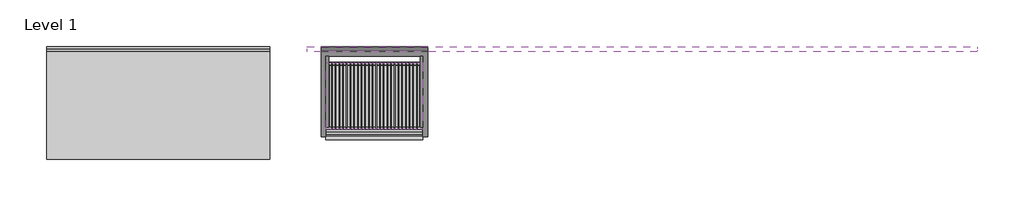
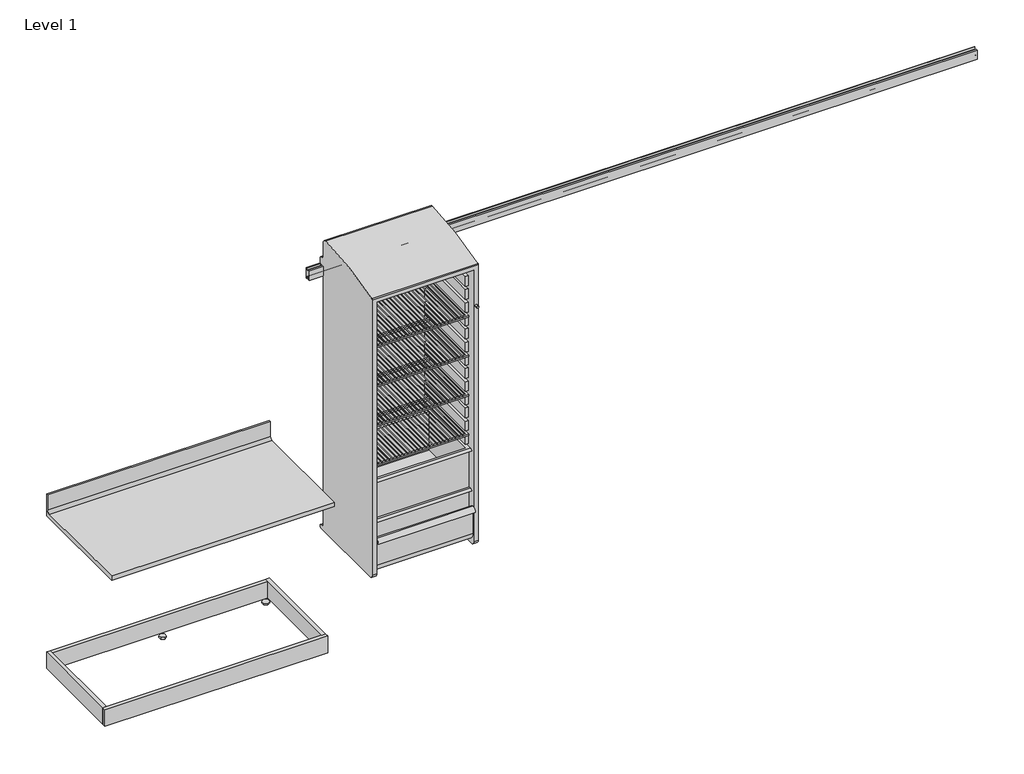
# One storey, incomplete: 10 furniture elements.
"""IFC4 building model written with IfcOpenShell, lengths in millimetres."""

from ifc_helpers import new_model, si_unit, origin, place, context, project, spatial, transform, mapped, element, save
from components import furniture_46a5a3ee, furniture_0da3120b, furniture_ac1c1512, furniture_2e5dc451, furniture_ac9ddba1, furniture_5ebc722f, furniture_ceff2c2c, c_9_c4f12e08, c_9_236a4160, standard_144w_a9847ba4

model = new_model("IFC4")

# Units and contexts
model_context = context("Model", 3, world=origin())
ifc_project = project(units=[si_unit("LENGTHUNIT", "METRE", prefix="MILLI")], contexts=[model_context])

# Site, building, storey
site = spatial("IfcSite", under=ifc_project)
building = spatial("IfcBuilding", under=site)
storey = spatial("IfcBuildingStorey", under=building, Name="Level 1", Elevation=0.0)

# Furniture
placement = place(None, origin())
furniture_shape = furniture_46a5a3ee(model_context)
element("IfcFurniture", 1, ObjectType="HermanMiller_CoStruc_CO252_CWireShelf : 14D x 20W", at=placement, inside=storey, context=model_context, shape_type="MappedRepresentation", body=[
    mapped(furniture_shape, transform((1789.17092, -269.14602, 0.0), x_axis=(1.0, 0.0, 0.0), y_axis=(0.0, 1.0, 0.0), z_axis=(0.0, 0.0, 1.0))),
])
furniture_2_shape = furniture_0da3120b(model_context)
element("IfcFurniture", 2, ObjectType="HermanMiller_CoStruc_CO252_CWireShelf : 14D x 20W", at=placement, inside=storey, context=model_context, shape_type="MappedRepresentation", body=[
    mapped(furniture_2_shape, transform((1789.17092, -269.14602, 0.0), x_axis=(1.0, 0.0, 0.0), y_axis=(0.0, 1.0, 0.0), z_axis=(0.0, 0.0, 1.0))),
])
furniture_3_shape = furniture_ac1c1512(model_context)
element("IfcFurniture", 3, ObjectType="HermanMiller_CoStruc_CO252_CWireShelf : 14D x 20W", at=placement, inside=storey, context=model_context, shape_type="MappedRepresentation", body=[
    mapped(furniture_3_shape, transform((1789.17092, -269.14602, 0.0), x_axis=(1.0, 0.0, 0.0), y_axis=(0.0, 1.0, 0.0), z_axis=(0.0, 0.0, 1.0))),
])
furniture_4_shape = furniture_2e5dc451(model_context)
element("IfcFurniture", 4, ObjectType="HermanMiller_CoStruc_CO252_CWireShelf : 14D x 20W", at=placement, inside=storey, context=model_context, shape_type="MappedRepresentation", body=[
    mapped(furniture_4_shape, transform((1789.17092, -269.14602, 0.0), x_axis=(1.0, 0.0, 0.0), y_axis=(0.0, 1.0, 0.0), z_axis=(0.0, 0.0, 1.0))),
])
furniture_5_shape = furniture_ac9ddba1(model_context)
element("IfcFurniture", 5, ObjectType="HermanMiller_CoStruc_CO561_LockerWithTambourDoor : 66\"H x 20\"D x 22\"W Wlock", at=placement, inside=storey, context=model_context, shape_type="MappedRepresentation", body=[
    mapped(furniture_5_shape, transform((1789.1125, -246.0625, 0.0), x_axis=(1.0, 0.0, 0.0), y_axis=(0.0, 1.0, 0.0), z_axis=(0.0, 0.0, 1.0))),
])
furniture_6_shape = furniture_5ebc722f(model_context)
element("IfcFurniture", 6, ObjectType="HermanMiller_Mora_CH600_CorianWorksurface : 4H Integrated Backsplash 24D 48W", at=placement, inside=storey, context=model_context, shape_type="MappedRepresentation", body=[
    mapped(furniture_6_shape, transform((0.0, 0.0, 0.0), x_axis=(1.0, 0.0, 0.0), y_axis=(0.0, 1.0, 0.0), z_axis=(0.0, 0.0, 1.0))),
])
furniture_7_shape = furniture_ceff2c2c(model_context)
element("IfcFurniture", 7, ObjectType="HermanMiller_Mora_CH250_PlinthBaseFinished : Flush on Both/Inline HPL 24D 48W", at=placement, inside=storey, context=model_context, shape_type="MappedRepresentation", body=[
    mapped(furniture_7_shape, transform((0.0, 0.0, 0.0), x_axis=(1.0, 0.0, 0.0), y_axis=(0.0, 1.0, 0.0), z_axis=(0.0, 0.0, 1.0))),
])
c_9_shape = c_9_c4f12e08(model_context)
element("IfcFurniture", 8, ObjectType="HermanMiller_CoStruc_CO207_Drawer : C - 9", at=placement, inside=storey, context=model_context, shape_type="MappedRepresentation", body=[
    mapped(c_9_shape, transform((1789.1035717, -281.84602, 0.0), x_axis=(1.0, 0.0, 0.0), y_axis=(0.0, 1.0, 0.0), z_axis=(0.0, 0.0, 1.0))),
])
c_9_2_shape = c_9_236a4160(model_context)
element("IfcFurniture", 9, ObjectType="HermanMiller_CoStruc_CO207_Drawer : C - 9", at=placement, inside=storey, context=model_context, shape_type="MappedRepresentation", body=[
    mapped(c_9_2_shape, transform((1789.1035717, -281.84602, 0.0), x_axis=(1.0, 0.0, 0.0), y_axis=(0.0, 1.0, 0.0), z_axis=(0.0, 0.0, 1.0))),
])
standard_144w_shape = standard_144w_a9847ba4(model_context)
element("IfcFurniture", 10, ObjectType="HermanMiller_CoStruc_CO282_StandardRail : Standard 144W", at=placement, inside=storey, context=model_context, shape_type="MappedRepresentation", body=[
    mapped(standard_144w_shape, transform((3318.5205525, 0.0, 0.0), x_axis=(1.0, 0.0, 0.0), y_axis=(0.0, 1.0, 0.0), z_axis=(0.0, 0.0, 1.0))),
])

save(model, "model.ifc")
